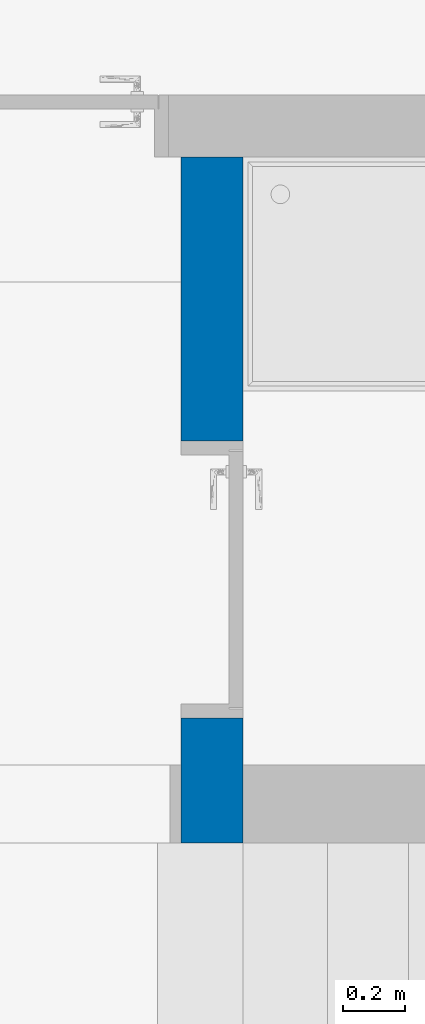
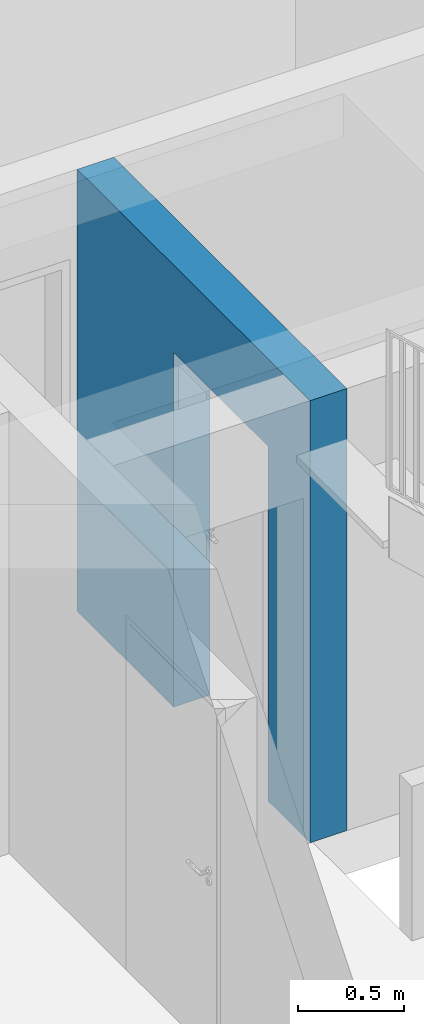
# One storey, part 3 of 18: 1 wall, 1 opening.
"""IFC2X3 building model written with IfcOpenShell, lengths in metres."""

from ifc_helpers import new_model, entity, si_unit, converted_unit, derived_unit, direction, frame, frame_2d, origin, place, context, subcontext, project, spatial, rectangle, extrude, material, layer, layer_set, layer_usage, type_object, element, save


model = new_model("IFC2X3")

# Units and contexts
model_context = context("Model", 3, precision=1e-05, world=origin(), true_north=direction((6.123233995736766e-17, 1.0)))
body_context = subcontext(model_context, "Body", "Model", "MODEL_VIEW")
ifc_project = project(units=[si_unit("LENGTHUNIT", "METRE"), si_unit("AREAUNIT", "SQUARE_METRE"), si_unit("VOLUMEUNIT", "CUBIC_METRE"), si_unit("POWERUNIT", "WATT"), derived_unit("USERDEFINED", [(si_unit("MASSUNIT", "GRAM", prefix="KILO"), 1), (si_unit("TIMEUNIT", "SECOND"), -3)]), derived_unit("THERMALRESISTANCEUNIT", [(si_unit("MASSUNIT", "GRAM", prefix="KILO"), -1), (si_unit("TIMEUNIT", "SECOND"), 3), (si_unit("THERMODYNAMICTEMPERATUREUNIT", "KELVIN"), 1)]), derived_unit("USERDEFINED", [(si_unit("MASSUNIT", "GRAM", prefix="KILO"), 1), (si_unit("TIMEUNIT", "SECOND"), -2), (si_unit("THERMODYNAMICTEMPERATUREUNIT", "KELVIN"), -1)]), derived_unit("THERMALTRANSMITTANCEUNIT", [(si_unit("MASSUNIT", "GRAM", prefix="KILO"), 1), (si_unit("TIMEUNIT", "SECOND"), -3), (si_unit("THERMODYNAMICTEMPERATUREUNIT", "KELVIN"), -1)]), converted_unit("PLANEANGLEUNIT", "DEGREE", entity("IfcPlaneAngleMeasure", 0.017453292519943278), si_unit("PLANEANGLEUNIT", "RADIAN"), dimensions=[0, 0, 0, 0, 0, 0, 0]), derived_unit("MOMENTOFINERTIAUNIT", [(si_unit("LENGTHUNIT", "METRE"), 4)])], contexts=[model_context])

# Site, building, storey
site_placement = place(None, origin())
site = spatial("IfcSite", under=ifc_project, at=site_placement, Name="Default", CompositionType="ELEMENT")
building_placement = place(site_placement, origin())
building = spatial("IfcBuilding", under=site, at=building_placement, CompositionType="ELEMENT")
storey_placement = place(building_placement, frame((0.0, 0.0, 2.6)))
storey = spatial("IfcBuildingStorey", under=building, at=storey_placement, Name="Erdgeschoss", CompositionType="ELEMENT", Elevation=2.6)

# Wall, opening
ifc_material = material(Name="Mauerwerk - Ziegel")
ifc_layer = layer(ifc_material, 0.2)
ifc_layer_set = layer_set([ifc_layer], Name="Basiswand:Ziegel 200")
ifc_layer_usage = layer_usage(ifc_layer_set, "AXIS2", "NEGATIVE", 0.1)
wall_type = type_object("IfcWallType", Name="Basiswand:Ziegel 200", PredefinedType="STANDARD", material=ifc_layer_set)
wall_placement = place(storey_placement, frame((35.54375489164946, 25.282272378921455, 0.0), z_axis=(0.0, 0.0, 1.0), x_axis=(0.0, -1.0, 0.0)))
wall = element("IfcWallStandardCase", 1, at=wall_placement, inside=storey, type_object=wall_type, material=ifc_layer_usage, Name="Basiswand:Ziegel 200", ObjectType="Basiswand:Ziegel 200", context=body_context, shape_type="SweptSolid", body=[
    extrude(rectangle(XDim=2.2000000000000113, YDim=0.20000000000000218, at=frame_2d((1.1000000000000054, -1.8943180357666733e-15), x_axis=(1.0, 0.0))), origin(), (0.0, 0.0, 1.0), 2.5500000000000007),
])
opening_placement = place(wall_placement, frame((0.909999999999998, -0.09999999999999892, -0.1800000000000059)))
element("IfcOpeningElement", 2, at=opening_placement, cuts=wall, Name="TU DF 1 - Rahmenstock flächenbündig:DL - 800 x 2000:1", ObjectType="Opening", context=body_context, shape_type="SweptSolid", body=[
    extrude(rectangle(XDim=2.2249999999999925, YDim=0.8899999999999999, at=frame_2d((1.1124999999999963, 0.44500000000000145), x_axis=(-1.0, 0.0))), frame((0.0, 0.0, 0.0), z_axis=(0.0, 1.0, 0.0), x_axis=(0.0, 0.0, 1.0)), (0.0, 0.0, 1.0), 0.2),
])

save(model, "model.ifc")
